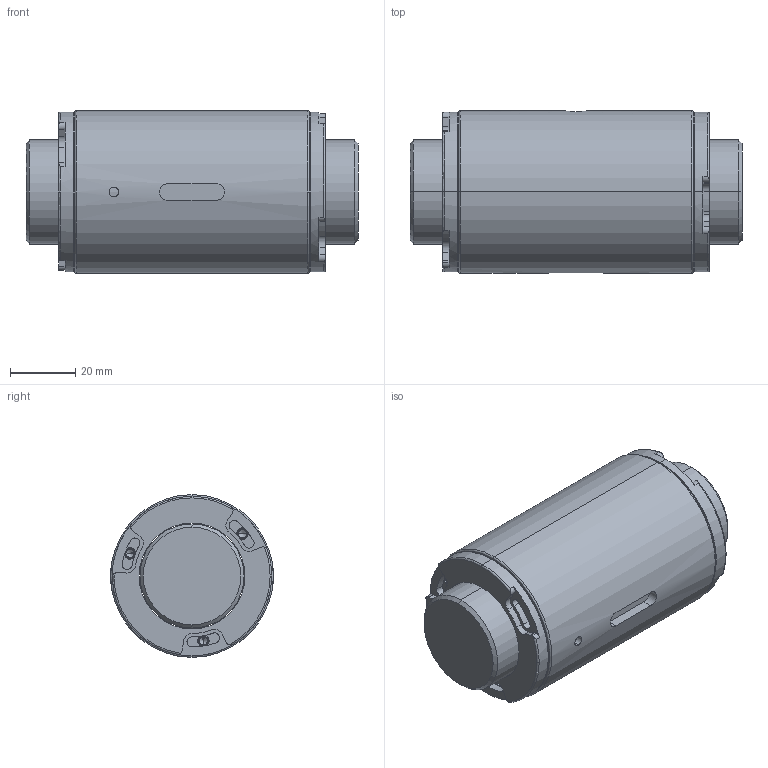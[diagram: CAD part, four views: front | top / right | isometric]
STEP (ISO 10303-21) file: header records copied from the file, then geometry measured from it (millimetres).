
FILE_DESCRIPTION (( 'STEP AP203' ), '1' );
FILE_NAME ('SCHR03232A1-C.STEP', '2020-06-17T08:53:45', ( '' ), ( '' ), 'SwSTEP 2.0', 'SolidWorks 2013', '' );
FILE_SCHEMA (( 'CONFIG_CONTROL_DESIGN' ));
Length unit declared in the file: millimetre
Products named in the file (1): SCHR03232A1-C
Bounding box: 102 x 50 x 50 mm (x, y, z)
Volume: 168885.3 mm3; surface area: 36705.4 mm2
Topology: 2 solids, 2 shells, 218 faces, 548 edges, 342 vertices
Faces by surface type: cylinder 115, plane 62, cone 28, torus 13
Entity records: 7052 total; most frequent: CARTESIAN_POINT 1567, DIRECTION 1267, ORIENTED_EDGE 1072, AXIS2_PLACEMENT_3D 538, EDGE_CURVE 536, VERTEX_POINT 342, CIRCLE 319, EDGE_LOOP 242
